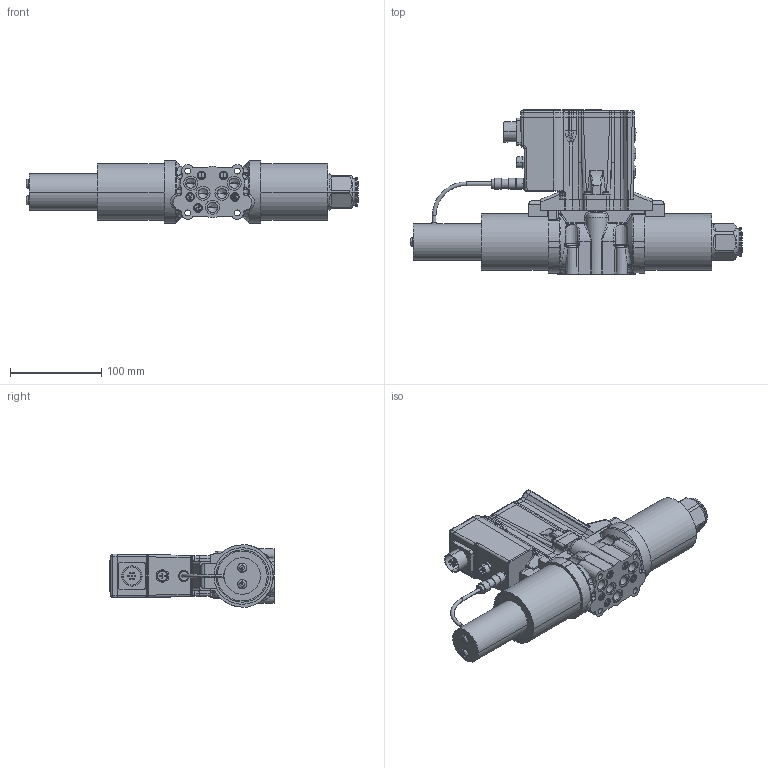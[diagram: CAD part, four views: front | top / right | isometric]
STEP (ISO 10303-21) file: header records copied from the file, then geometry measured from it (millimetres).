
FILE_DESCRIPTION((''),'2;1');
FILE_NAME('PRM9_103_E02S02_A_CAN_RD_ASM','2023-07-19T',('l.soukupova'),(''),'PRO/ENGINEER BY PARAMETRIC TECHNOLOGY CORPORATION, 2015440','PRO/ENGINEER BY PARAMETRIC TECHNOLOGY CORPORATION, 2015440','');
FILE_SCHEMA(('AUTOMOTIVE_DESIGN { 1 0 10303 214 1 1 1 1 }'));
Products named in the file (6): PRM9_103_A; C31A_EWX; 33055900_AF142; E02S02_CAN; SNIMAC_PRM9_NG10_WOUTC; PRM9_103_E02S02_A_CAN_RD_ASM
Assembly tree (6 placements, depth 2):
  PRM9_103_E02S02_A_CAN_RD_ASM
    PRM9_103_A
    C31A_EWX  x2
    33055900_AF142
    E02S02_CAN
    SNIMAC_PRM9_NG10_WOUTC
Bounding box: 364 x 180 x 68.21 mm (x, y, z)
Volume: 1137804.3 mm3; surface area: 223576.5 mm2
Topology: 6 solids, 24 shells, 1503 faces, 3834 edges, 2604 vertices
Faces by surface type: plane 558, cylinder 517, bspline 268, cone 86, torus 57, sphere 17
Entity records: 83068 total; most frequent: CARTESIAN_POINT 33917, ORIENTED_EDGE 6972, DIRECTION 6707, PRESENTATION_STYLE_ASSIGNMENT 4162, STYLED_ITEM 3942, CURVE_STYLE 3716, EDGE_CURVE 3512, AXIS2_PLACEMENT_3D 2465
